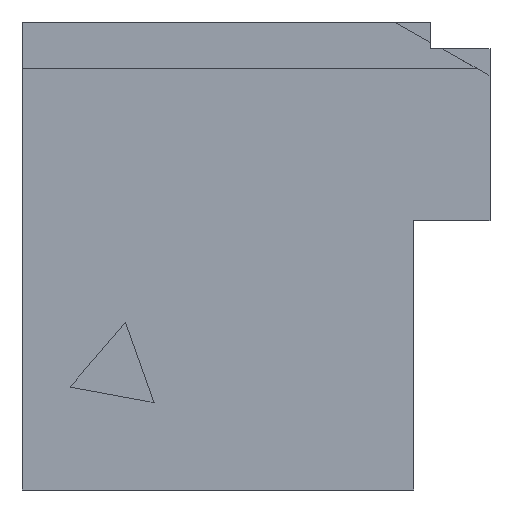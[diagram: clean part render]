
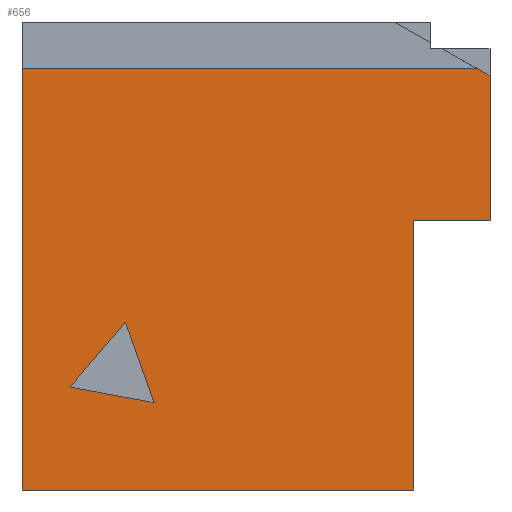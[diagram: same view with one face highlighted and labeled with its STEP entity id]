
A CAD part, left-side view. The second image highlights one B-rep face of the part: STEP entity #656.
In plain terms, the highlighted planar face has unit normal (-1, 0, 0).
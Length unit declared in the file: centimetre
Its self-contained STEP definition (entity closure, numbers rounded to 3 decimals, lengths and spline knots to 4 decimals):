
#1 = LINE ( 'NONE', #1089, #767 ) ;
#25 = EDGE_CURVE ( 'NONE', #1362, #964, #1173, .T. ) ;
#34 = VECTOR ( 'NONE', #571, 100. ) ;
#37 = ORIENTED_EDGE ( 'NONE', *, *, #692, .F. ) ;
#74 = VECTOR ( 'NONE', #428, 100. ) ;
#97 = CARTESIAN_POINT ( 'NONE',  ( 0., 0., 885.1083 ) ) ;
#100 = EDGE_CURVE ( 'NONE', #680, #475, #1, .T. ) ;
#111 = EDGE_LOOP ( 'NONE', ( #619, #1185, #163 ) ) ;
#114 = LINE ( 'NONE', #224, #287 ) ;
#140 = LINE ( 'NONE', #566, #851 ) ;
#163 = ORIENTED_EDGE ( 'NONE', *, *, #379, .F. ) ;
#198 = CARTESIAN_POINT ( 'NONE',  ( 0., 162.8231, 574.8965 ) ) ;
#200 = VERTEX_POINT ( 'NONE', #198 ) ;
#224 = CARTESIAN_POINT ( 'NONE',  ( 0., 162.8231, 574.8965 ) ) ;
#236 = CARTESIAN_POINT ( 'NONE',  ( 0., 1000., 900.6007 ) ) ;
#245 = CARTESIAN_POINT ( 'NONE',  ( 0., 1000., 0. ) ) ;
#253 = VECTOR ( 'NONE', #753, 100. ) ;
#263 = CARTESIAN_POINT ( 'NONE',  ( 0., 27.5755, 900.6007 ) ) ;
#264 = DIRECTION ( 'NONE',  ( 1., 0., 0. ) ) ;
#270 = VECTOR ( 'NONE', #922, 100. ) ;
#287 = VECTOR ( 'NONE', #557, 100. ) ;
#318 = AXIS2_PLACEMENT_3D ( 'NONE', #908, #264, #1010 ) ;
#321 = LINE ( 'NONE', #532, #74 ) ;
#346 = EDGE_CURVE ( 'NONE', #475, #1280, #1098, .T. ) ;
#373 = PLANE ( 'NONE',  #318 ) ;
#379 = EDGE_CURVE ( 'NONE', #1006, #625, #394, .T. ) ;
#394 = LINE ( 'NONE', #700, #994 ) ;
#408 = ORIENTED_EDGE ( 'NONE', *, *, #346, .T. ) ;
#428 = DIRECTION ( 'NONE',  ( 0., 0.649, -0.761 ) ) ;
#444 = LINE ( 'NONE', #1295, #34 ) ;
#445 = CARTESIAN_POINT ( 'NONE',  ( 0., 204.5001, 1000. ) ) ;
#456 = EDGE_CURVE ( 'NONE', #1099, #200, #514, .T. ) ;
#465 = VECTOR ( 'NONE', #1106, 100. ) ;
#475 = VERTEX_POINT ( 'NONE', #1231 ) ;
#486 = CARTESIAN_POINT ( 'NONE',  ( 0., 778.9771, 358.6552 ) ) ;
#500 = CARTESIAN_POINT ( 'NONE',  ( 0., 162.8231, 574.8965 ) ) ;
#512 = CARTESIAN_POINT ( 'NONE',  ( 0., 0., 900.6007 ) ) ;
#514 = LINE ( 'NONE', #500, #270 ) ;
#532 = CARTESIAN_POINT ( 'NONE',  ( 0., 778.9771, 358.6552 ) ) ;
#541 = CARTESIAN_POINT ( 'NONE',  ( 0., 717.8621, 186.7381 ) ) ;
#557 = DIRECTION ( 'NONE',  ( 0., 0., -1. ) ) ;
#566 = CARTESIAN_POINT ( 'NONE',  ( 0., 0., 1000. ) ) ;
#571 = DIRECTION ( 'NONE',  ( 0., -0.983, -0.181 ) ) ;
#619 = ORIENTED_EDGE ( 'NONE', *, *, #1064, .F. ) ;
#625 = VERTEX_POINT ( 'NONE', #486 ) ;
#656 = ADVANCED_FACE ( 'NONE', ( #1327, #1198 ), #373, .F. ) ;
#659 = ORIENTED_EDGE ( 'NONE', *, *, #855, .T. ) ;
#675 = CARTESIAN_POINT ( 'NONE',  ( 0., 0., 574.8965 ) ) ;
#680 = VERTEX_POINT ( 'NONE', #236 ) ;
#692 = EDGE_CURVE ( 'NONE', #964, #1099, #140, .T. ) ;
#697 = ORIENTED_EDGE ( 'NONE', *, *, #100, .T. ) ;
#700 = CARTESIAN_POINT ( 'NONE',  ( 0., 717.8621, 186.7381 ) ) ;
#705 = CARTESIAN_POINT ( 'NONE',  ( 0., 162.8231, 0. ) ) ;
#710 = LINE ( 'NONE', #512, #812 ) ;
#711 = DIRECTION ( 'NONE',  ( 0., 0.335, 0.942 ) ) ;
#753 = DIRECTION ( 'NONE',  ( 0., -0.872, -0.49 ) ) ;
#756 = VERTEX_POINT ( 'NONE', #1348 ) ;
#767 = VECTOR ( 'NONE', #1380, 100. ) ;
#812 = VECTOR ( 'NONE', #1358, 100. ) ;
#851 = VECTOR ( 'NONE', #1217, 100. ) ;
#855 = EDGE_CURVE ( 'NONE', #1362, #680, #710, .T. ) ;
#863 = ORIENTED_EDGE ( 'NONE', *, *, #456, .F. ) ;
#908 = CARTESIAN_POINT ( 'NONE',  ( 0., 1000., 1000. ) ) ;
#922 = DIRECTION ( 'NONE',  ( 0., 1., 0. ) ) ;
#960 = EDGE_CURVE ( 'NONE', #200, #1280, #114, .T. ) ;
#964 = VERTEX_POINT ( 'NONE', #97 ) ;
#994 = VECTOR ( 'NONE', #711, 100. ) ;
#1006 = VERTEX_POINT ( 'NONE', #541 ) ;
#1010 = DIRECTION ( 'NONE',  ( 0., 0., -1. ) ) ;
#1014 = EDGE_CURVE ( 'NONE', #625, #756, #321, .T. ) ;
#1064 = EDGE_CURVE ( 'NONE', #756, #1006, #444, .T. ) ;
#1089 = CARTESIAN_POINT ( 'NONE',  ( 0., 1000., 1000. ) ) ;
#1098 = LINE ( 'NONE', #245, #465 ) ;
#1099 = VERTEX_POINT ( 'NONE', #675 ) ;
#1106 = DIRECTION ( 'NONE',  ( 0., -1., 0. ) ) ;
#1144 = EDGE_LOOP ( 'NONE', ( #37, #1246, #659, #697, #408, #1293, #863 ) ) ;
#1173 = LINE ( 'NONE', #445, #253 ) ;
#1185 = ORIENTED_EDGE ( 'NONE', *, *, #1014, .F. ) ;
#1198 = FACE_OUTER_BOUND ( 'NONE', #1144, .T. ) ;
#1217 = DIRECTION ( 'NONE',  ( 0., 0., -1. ) ) ;
#1231 = CARTESIAN_POINT ( 'NONE',  ( 0., 1000., 0. ) ) ;
#1246 = ORIENTED_EDGE ( 'NONE', *, *, #25, .F. ) ;
#1280 = VERTEX_POINT ( 'NONE', #705 ) ;
#1293 = ORIENTED_EDGE ( 'NONE', *, *, #960, .F. ) ;
#1295 = CARTESIAN_POINT ( 'NONE',  ( 0., 897.3042, 219.7695 ) ) ;
#1327 = FACE_BOUND ( 'NONE', #111, .T. ) ;
#1348 = CARTESIAN_POINT ( 'NONE',  ( 0., 897.3042, 219.7695 ) ) ;
#1358 = DIRECTION ( 'NONE',  ( 0., 1., 0. ) ) ;
#1362 = VERTEX_POINT ( 'NONE', #263 ) ;
#1380 = DIRECTION ( 'NONE',  ( 0., 0., -1. ) ) ;
